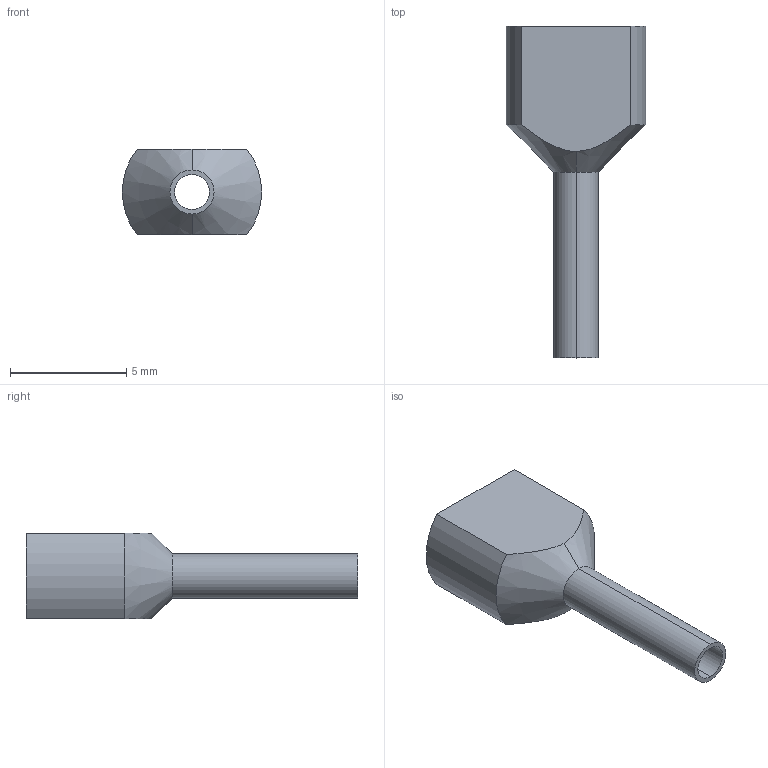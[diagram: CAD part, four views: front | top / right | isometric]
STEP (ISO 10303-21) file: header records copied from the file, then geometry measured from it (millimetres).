
FILE_DESCRIPTION (( 'STEP AP214' ), '1' );
FILE_NAME ('278042 OptiKit T-Shv2-PVC-0,5-8.STEP', '2020-02-19T10:32:34', ( '' ), ( '' ), 'SwSTEP 2.0', 'SolidWorks 2018', '' );
FILE_SCHEMA (( 'AUTOMOTIVE_DESIGN' ));
Length unit declared in the file: millimetre
Products named in the file (1): 278042 OptiKit T-Shv2-PVC-0,5-8
Bounding box: 6 x 14.3 x 3.7 mm (x, y, z)
Volume: 28.8 mm3; surface area: 292.2 mm2
Topology: 1 solids, 1 shells, 18 faces, 44 edges, 28 vertices
Faces by surface type: cylinder 8, plane 6, cone 4
Entity records: 808 total; most frequent: CARTESIAN_POINT 147, DIRECTION 90, ORIENTED_EDGE 88, EDGE_CURVE 44, AXIS2_PLACEMENT_3D 35, VERTEX_POINT 28, UNCERTAINTY_MEASURE_WITH_UNIT 21, SURFACE_SIDE_STYLE 20
